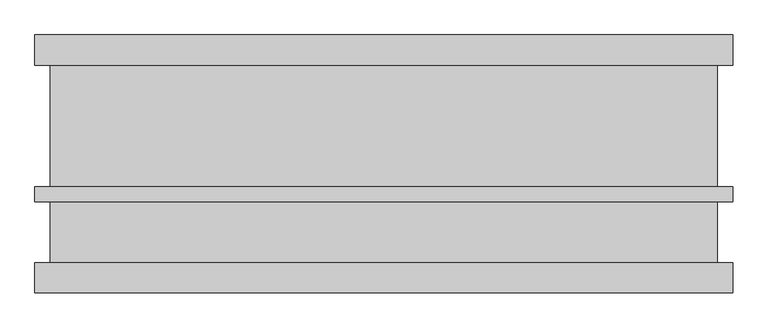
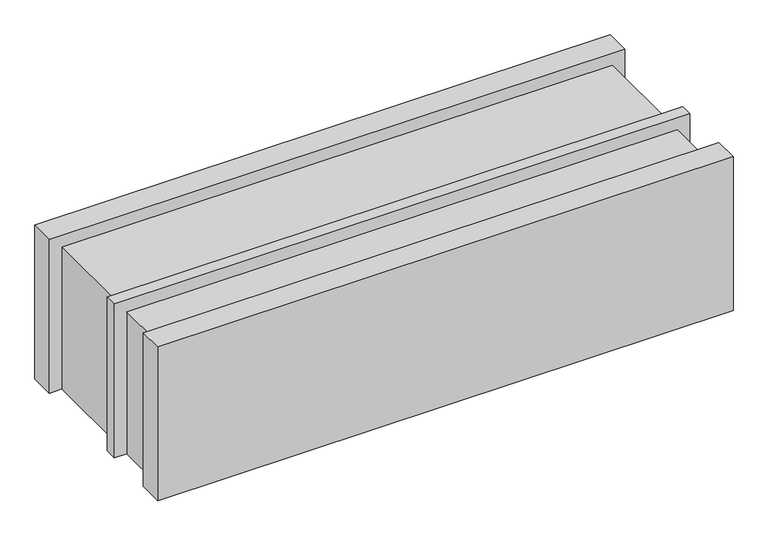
"""IFC4 building model written with IfcOpenShell, lengths in millimetres: proxy geometry, 花池 : 花池."""

from ifc_helpers import new_model, si_unit, origin, place, context, project, spatial, faceted_brep, source, transform, mapped, element, save


def generic_models_23763dcb(model_context):
    return source(origin(), model_context, "Body", "Brep", [
        faceted_brep([(-1000.0, 700.0, 0.0), (-1000.0, 0.0, 0.0), (1000.0, 0.0, 0.0), (1000.0, 700.0, 0.0), (1150.0, 700.0, 0.0), (1150.0, 600.0, 0.0), (1100.0, 600.0, 0.0), (1100.0, 200.0, 0.0), (1150.0, 200.0, 0.0), (1150.0, 150.0, 0.0), (1100.0, 150.0, 0.0), (1100.0, -50.0, 0.0), (1150.0, -50.0, 0.0), (1150.0, -150.0, 0.0), (-1150.0, -150.0, 0.0), (-1150.0, -50.0, 0.0), (-1100.0, -50.0, 0.0), (-1100.0, 150.0, 0.0), (-1150.0, 150.0, 0.0), (-1150.0, 200.0, 0.0), (-1100.0, 200.0, 0.0), (-1100.0, 600.0, 0.0), (-1150.0, 600.0, 0.0), (-1150.0, 700.0, 0.0), (-1000.0, 700.0, 500.0), (-1000.0, 0.0, 500.0), (1000.0, 0.0, 500.0), (1150.0, -150.0, 650.0), (-1150.0, -150.0, 650.0), (-1150.0, -50.0, 650.0), (1150.0, -50.0, 650.0), (1100.0, -50.0, 600.0), (-1100.0, -50.0, 600.0), (-1100.0, 150.0, 600.0), (1100.0, 150.0, 600.0), (1150.0, 150.0, 650.0), (-1150.0, 150.0, 650.0), (-1150.0, 200.0, 650.0), (1150.0, 200.0, 650.0), (1100.0, 200.0, 600.0), (-1100.0, 200.0, 600.0), (-1100.0, 600.0, 600.0), (1100.0, 600.0, 600.0), (1150.0, 600.0, 650.0), (-1150.0, 600.0, 650.0), (-1150.0, 700.0, 650.0), (1150.0, 700.0, 650.0), (1000.0, 700.0, 500.0)], [[[0, 1, 2, 3, 4, 5, 6, 7, 8, 9, 10, 11, 12, 13, 14, 15, 16, 17, 18, 19, 20, 21, 22, 23]], [[1, 0, 24, 25]], [[2, 1, 25, 26]], [[14, 13, 27, 28]], [[15, 14, 28, 29]], [[16, 15, 29, 30, 12, 11, 31, 32]], [[17, 16, 32, 33]], [[18, 17, 33, 34, 10, 9, 35, 36]], [[19, 18, 36, 37]], [[20, 19, 37, 38, 8, 7, 39, 40]], [[21, 20, 40, 41]], [[22, 21, 41, 42, 6, 5, 43, 44]], [[23, 22, 44, 45]], [[0, 23, 45, 46, 4, 3, 47, 24]], [[25, 24, 47, 26]], [[29, 28, 27, 30]], [[33, 32, 31, 34]], [[37, 36, 35, 38]], [[41, 40, 39, 42]], [[45, 44, 43, 46]], [[26, 47, 3, 2]], [[30, 27, 13, 12]], [[34, 31, 11, 10]], [[38, 35, 9, 8]], [[42, 39, 7, 6]], [[46, 43, 5, 4]]]),
    ])


if __name__ == "__main__":
    model = new_model("IFC4")
    model_context = context("Model", 3, world=origin())
    ifc_project = project(units=[si_unit("LENGTHUNIT", "METRE", prefix="MILLI")], contexts=[model_context])
    site = spatial("IfcSite", under=ifc_project)
    building = spatial("IfcBuilding", under=site)
    placement = place(None, origin())
    generic_models_shape = generic_models_23763dcb(model_context)
    element("IfcBuildingElementProxy", 1, Name="花池 : 花池", ObjectType="花池 : 花池", at=placement, inside=building, context=model_context, shape_type="MappedRepresentation", body=[
        mapped(generic_models_shape, transform((0.0, 0.0, 0.0), x_axis=(1.0, 0.0, 0.0), y_axis=(0.0, 1.0, 0.0), z_axis=(0.0, 0.0, 1.0))),
    ])
    save(model, "model.ifc")
